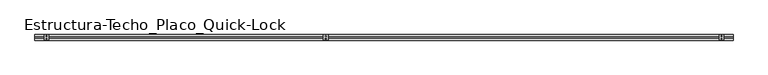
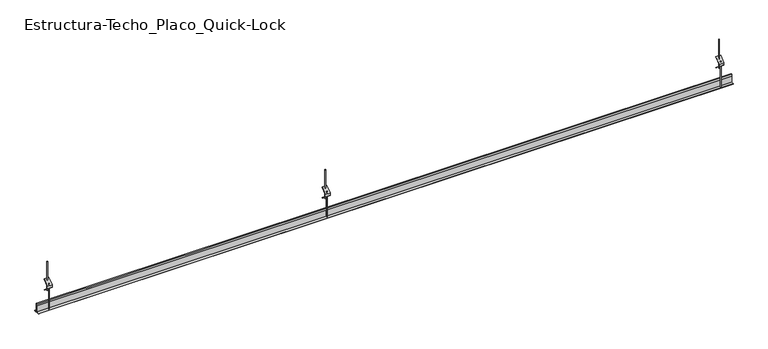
"""IFC4 building model written with IfcOpenShell, lengths in millimetres: proxy geometry, Estructura-Techo_Placo_Quick-Lock : Perfil Primario."""

from ifc_helpers import new_model, si_unit, point, frame, frame_2d, origin, origin_with_axes, place, context, project, spatial, polyline, circle_curve, trimmed, segment, composite_curve, outline, extrude, source, transform, mapped, element, save


def estructura_techo_placo_quick_lock_550391a7(model_context):
    return source(origin(), model_context, "Body", "SweptSolid", [
        extrude(outline(polyline([(-12.0, 99.5), (-12.0, 109.5), (12.0, 129.5), (12.0, 128.0857864), (-11.0, 109.0857864), (-11.0, 99.9142136), (12.0, 80.9142136), (12.0, 79.5), (-12.0, 99.5)])), frame((2940.0, 0.0, 0.0), z_axis=(1.0, 0.0, 0.0), x_axis=(0.0, 1.0, 0.0)), (0.0, 0.0, 1.0), 20.0),
        extrude(outline(composite_curve([segment(trimmed(circle_curve(frame_2d((2950.0, 6.0)), 1.5), [point((2948.5, 6.0))], [point((2951.5, 6.0))], False, "CARTESIAN"), True, "CONTINUOUS"), segment(trimmed(circle_curve(frame_2d((2950.0, 6.0)), 1.5), [point((2951.5, 6.0))], [point((2948.5, 6.0))], False, "CARTESIAN"), True, "CONTINUOUS")], self_intersect=False)), frame((0.0, 0.0, 78.8860888), z_axis=(0.0, 0.0, 1.0), x_axis=(1.0, 0.0, 0.0)), (0.0, 0.0, 1.0), 130.1139112),
        extrude(outline(composite_curve([segment(trimmed(circle_curve(frame_2d((2950.0, -6.0)), 1.5), [point((2948.5, -6.0))], [point((2951.5, -6.0))], False, "CARTESIAN"), True, "CONTINUOUS"), segment(trimmed(circle_curve(frame_2d((2950.0, -6.0)), 1.5), [point((2951.5, -6.0))], [point((2948.5, -6.0))], False, "CARTESIAN"), True, "CONTINUOUS")], self_intersect=False)), origin_with_axes(), (0.0, 0.0, 1.0), 117.1833352),
        extrude(outline(polyline([(-12.0, 99.5), (-12.0, 109.5), (12.0, 129.5), (12.0, 128.0857864), (-11.0, 109.0857864), (-11.0, 99.9142136), (12.0, 80.9142136), (12.0, 79.5), (-12.0, 99.5)])), frame((1240.0, 0.0, 0.0), z_axis=(1.0, 0.0, 0.0), x_axis=(0.0, 1.0, 0.0)), (0.0, 0.0, 1.0), 20.0),
        extrude(outline(composite_curve([segment(trimmed(circle_curve(frame_2d((1250.0, 6.0)), 1.5), [point((1248.5, 6.0))], [point((1251.5, 6.0))], False, "CARTESIAN"), True, "CONTINUOUS"), segment(trimmed(circle_curve(frame_2d((1250.0, 6.0)), 1.5), [point((1251.5, 6.0))], [point((1248.5, 6.0))], False, "CARTESIAN"), True, "CONTINUOUS")], self_intersect=False)), frame((0.0, 0.0, 78.8860888), z_axis=(0.0, 0.0, 1.0), x_axis=(1.0, 0.0, 0.0)), (0.0, 0.0, 1.0), 130.1139112),
        extrude(outline(composite_curve([segment(trimmed(circle_curve(frame_2d((1250.0, -6.0)), 1.5), [point((1248.5, -6.0))], [point((1251.5, -6.0))], False, "CARTESIAN"), True, "CONTINUOUS"), segment(trimmed(circle_curve(frame_2d((1250.0, -6.0)), 1.5), [point((1251.5, -6.0))], [point((1248.5, -6.0))], False, "CARTESIAN"), True, "CONTINUOUS")], self_intersect=False)), origin_with_axes(), (0.0, 0.0, 1.0), 117.1833352),
        extrude(outline(polyline([(-12.0, 99.5), (-12.0, 109.5), (12.0, 129.5), (12.0, 128.0857864), (-11.0, 109.0857864), (-11.0, 99.9142136), (12.0, 80.9142136), (12.0, 79.5), (-12.0, 99.5)])), frame((40.0, 0.0, 0.0), z_axis=(1.0, 0.0, 0.0), x_axis=(0.0, 1.0, 0.0)), (0.0, 0.0, 1.0), 20.0),
        extrude(outline(composite_curve([segment(trimmed(circle_curve(frame_2d((50.0, 6.0)), 1.5), [point((48.5, 6.0))], [point((51.5, 6.0))], False, "CARTESIAN"), True, "CONTINUOUS"), segment(trimmed(circle_curve(frame_2d((50.0, 6.0)), 1.5), [point((51.5, 6.0))], [point((48.5, 6.0))], False, "CARTESIAN"), True, "CONTINUOUS")], self_intersect=False)), frame((0.0, 0.0, 78.8860888), z_axis=(0.0, 0.0, 1.0), x_axis=(1.0, 0.0, 0.0)), (0.0, 0.0, 1.0), 130.1139112),
        extrude(outline(composite_curve([segment(trimmed(circle_curve(frame_2d((50.0, -6.0)), 1.5), [point((48.5, -6.0))], [point((51.5, -6.0))], False, "CARTESIAN"), True, "CONTINUOUS"), segment(trimmed(circle_curve(frame_2d((50.0, -6.0)), 1.5), [point((51.5, -6.0))], [point((48.5, -6.0))], False, "CARTESIAN"), True, "CONTINUOUS")], self_intersect=False)), origin_with_axes(), (0.0, 0.0, 1.0), 117.1833352),
        extrude(outline(polyline([(-12.0, -0.8), (-12.0, 0.0), (-0.4, 0.0), (-0.4, 29.2), (-2.5, 29.2), (-2.5, 37.2), (2.5, 37.2), (2.5, 29.2), (0.4, 29.2), (0.4, 0.0), (12.0, 0.0), (12.0, -0.8), (-12.0, -0.8)]), holes=[polyline([(-1.7, 36.4), (-1.7, 30.0), (1.7, 30.0), (1.7, 36.4), (-1.7, 36.4)])]), frame((0.0, 0.0, 0.0), z_axis=(1.0, 0.0, 0.0), x_axis=(0.0, 1.0, 0.0)), (0.0, 0.0, 1.0), 3000.0),
    ])


if __name__ == "__main__":
    model = new_model("IFC4")
    model_context = context("Model", 3, world=origin())
    ifc_project = project(units=[si_unit("LENGTHUNIT", "METRE", prefix="MILLI")], contexts=[model_context])
    site = spatial("IfcSite", under=ifc_project)
    building = spatial("IfcBuilding", under=site)
    placement = place(None, origin())
    estructura_techo_placo_quick_lock_shape = estructura_techo_placo_quick_lock_550391a7(model_context)
    element("IfcBuildingElementProxy", 1, Name="Estructura-Techo_Placo_Quick-Lock : Perfil Primario", ObjectType="Estructura-Techo_Placo_Quick-Lock : Perfil Primario", at=placement, inside=building, context=model_context, shape_type="MappedRepresentation", body=[
        mapped(estructura_techo_placo_quick_lock_shape, transform((0.0, 0.0, 0.0), x_axis=(1.0, 0.0, 0.0), y_axis=(0.0, 1.0, 0.0), z_axis=(0.0, 0.0, 1.0))),
    ])
    save(model, "model.ifc")
